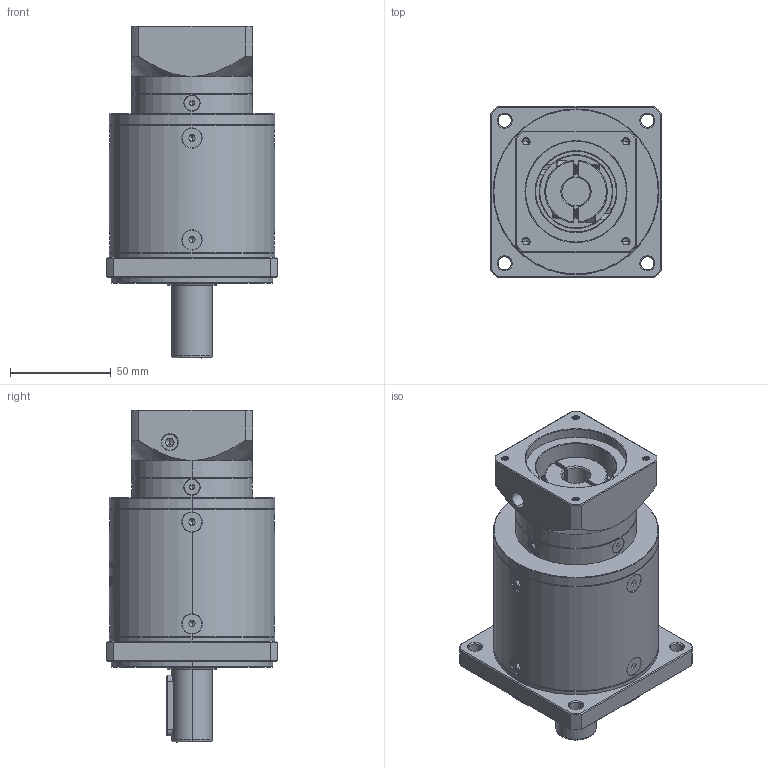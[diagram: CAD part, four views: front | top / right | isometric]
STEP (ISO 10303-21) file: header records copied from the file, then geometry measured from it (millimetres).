
FILE_DESCRIPTION (( 'STEP AP214' ), '1' );
FILE_NAME ('ZF80-D20-L3-14-50-70-M4.step', '2022-05-08T09:24:33', ( '' ), ( 'Microsoft' ), 'SwSTEP 2.0', 'SolidWorks 2016', '' );
FILE_SCHEMA (( 'AUTOMOTIVE_DESIGN' ));
Length unit declared in the file: millimetre
Products named in the file (1): ZF80-D20-L3-14-50-70-M4
Bounding box: 85 x 85 x 164.5 mm (x, y, z)
Volume: 572080.2 mm3; surface area: 72621.5 mm2
Topology: 18 solids, 18 shells, 2010 faces, 5259 edges, 3345 vertices
Faces by surface type: plane 948, cylinder 393, bspline 328, cone 327, torus 14
Entity records: 105738 total; most frequent: CARTESIAN_POINT 37590, ORIENTED_EDGE 10442, DIRECTION 8347, EDGE_CURVE 5221, VERTEX_POINT 3345, VECTOR 2807, LINE 2807, AXIS2_PLACEMENT_3D 2770
